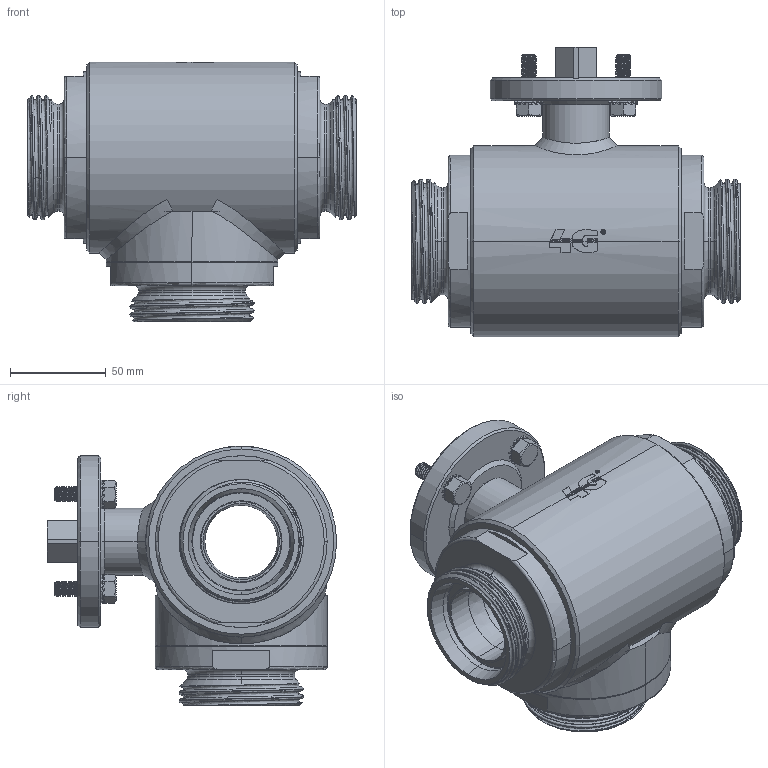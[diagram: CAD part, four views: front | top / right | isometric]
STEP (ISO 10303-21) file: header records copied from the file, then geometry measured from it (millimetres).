
FILE_DESCRIPTION((''),'2;1');
FILE_NAME('3030256341F','2016-09-08T',('UFFICIO TECNICO'),('CDM Tecnoconsulting'),'CREO PARAMETRIC BY PTC INC, 2015290','CREO PARAMETRIC BY PTC INC, 2015290','');
FILE_SCHEMA(('CONFIG_CONTROL_DESIGN'));
Products named in the file (1): 3030256341F
Bounding box: 172 x 151.5 x 136 mm (x, y, z)
Surface area: 162556.1 mm2 (no closed solid volume)
Topology: 0 solids, 41 shells, 1057 faces, 3524 edges, 2447 vertices
Faces by surface type: cylinder 409, plane 309, cone 153, bspline 126, torus 48, extrusion 11, sphere 1
Entity records: 80790 total; most frequent: CARTESIAN_POINT 52180, ORIENTED_EDGE 5961, DIRECTION 4586, EDGE_CURVE 3521, VERTEX_POINT 2447, AXIS2_PLACEMENT_3D 1746, B_SPLINE_CURVE_WITH_KNOTS 1623, EDGE_LOOP 1108
